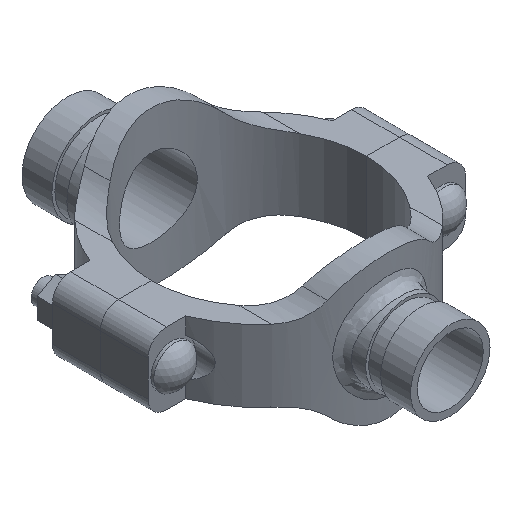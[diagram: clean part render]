
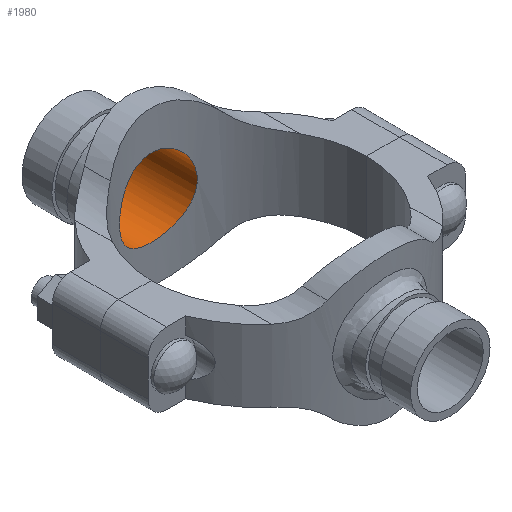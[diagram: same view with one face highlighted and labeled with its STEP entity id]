
A CAD part, isometric view. The second image highlights one B-rep face of the part: STEP entity #1980.
In plain terms, the highlighted cylindrical face has radius 20.637 mm (diameter 41.275 mm), a full revolution.
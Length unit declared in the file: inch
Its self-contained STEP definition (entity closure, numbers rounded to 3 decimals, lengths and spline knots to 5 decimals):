
#35=B_SPLINE_CURVE_WITH_KNOTS('',3,(#3374,#3375,#3376,#3377,#3378,#3379,
#3380,#3381,#3382,#3383,#3384,#3385,#3386,#3387,#3388,#3389,#3390,#3391,
#3392,#3393,#3394,#3395,#3396,#3397,#3398,#3399,#3400,#3401,#3402,#3403,
#3404,#3405,#3406,#3407,#3408,#3409,#3410,#3411,#3412,#3413,#3414,#3415,
#3416,#3417,#3418,#3419,#3420,#3421,#3422,#3423,#3424,#3425,#3426,#3427,
#3428,#3429,#3430,#3431,#3432,#3433,#3434,#3435,#3436,#3437,#3438,#3439),
 .UNSPECIFIED.,.T.,.F.,(4,2,2,2,2,2,2,2,2,2,2,2,2,2,2,2,2,2,2,2,2,2,2,2,
2,2,2,2,2,2,2,2,4),(0.,0.39269,0.78538,1.17808,
1.57077,1.96321,2.35564,2.74808,3.14051,
3.53295,3.92539,4.31782,4.71026,5.10295,
5.49564,5.88834,6.28103,6.67372,7.06641,
7.45911,7.8518,8.24423,8.63667,9.02911,
9.42154,9.81398,10.20642,10.59885,10.99129,
11.38398,11.77667,12.16937,12.56206),
 .UNSPECIFIED.);
#77=CYLINDRICAL_SURFACE('',#2186,0.8125);
#178=FACE_OUTER_BOUND('',#293,.T.);
#293=EDGE_LOOP('',(#1408,#1409,#1410,#1411));
#440=LINE('',#3373,#590);
#590=VECTOR('',#2532,0.8125);
#713=CIRCLE('',#2187,0.8125);
#846=VERTEX_POINT('',#3370);
#847=VERTEX_POINT('',#3372);
#1062=EDGE_CURVE('',#846,#846,#713,.T.);
#1063=EDGE_CURVE('',#846,#847,#440,.T.);
#1064=EDGE_CURVE('',#847,#847,#35,.T.);
#1408=ORIENTED_EDGE('',*,*,#1062,.F.);
#1409=ORIENTED_EDGE('',*,*,#1063,.T.);
#1410=ORIENTED_EDGE('',*,*,#1064,.F.);
#1411=ORIENTED_EDGE('',*,*,#1063,.F.);
#1980=ADVANCED_FACE('',(#178),#77,.F.);
#2186=AXIS2_PLACEMENT_3D('',#3369,#2528,#2529);
#2187=AXIS2_PLACEMENT_3D('',#3371,#2530,#2531);
#2528=DIRECTION('center_axis',(0.,-1.,0.));
#2529=DIRECTION('ref_axis',(-1.,0.,0.));
#2530=DIRECTION('center_axis',(0.,-1.,0.));
#2531=DIRECTION('ref_axis',(-1.,0.,0.));
#2532=DIRECTION('',(0.,-1.,0.));
#3369=CARTESIAN_POINT('Origin',(0.,4.,0.));
#3370=CARTESIAN_POINT('',(0.8125,4.,0.));
#3371=CARTESIAN_POINT('Origin',(0.,4.,0.));
#3372=CARTESIAN_POINT('',(0.8125,2.09818,0.));
#3373=CARTESIAN_POINT('',(0.8125,4.,0.));
#3374=CARTESIAN_POINT('Ctrl Pts',(0.8125,2.09818,0.));
#3375=CARTESIAN_POINT('Ctrl Pts',(0.8125,2.09818,-0.05153));
#3376=CARTESIAN_POINT('Ctrl Pts',(0.80752,2.10013,-0.10466));
#3377=CARTESIAN_POINT('Ctrl Pts',(0.78672,2.10801,-0.21002));
#3378=CARTESIAN_POINT('Ctrl Pts',(0.77091,2.11393,-0.26226));
#3379=CARTESIAN_POINT('Ctrl Pts',(0.72932,2.12863,-0.36219));
#3380=CARTESIAN_POINT('Ctrl Pts',(0.7035,2.13742,-0.40997));
#3381=CARTESIAN_POINT('Ctrl Pts',(0.64402,2.15609,-0.49823));
#3382=CARTESIAN_POINT('Ctrl Pts',(0.61035,2.16595,-0.5387));
#3383=CARTESIAN_POINT('Ctrl Pts',(0.53873,2.18487,-0.61032));
#3384=CARTESIAN_POINT('Ctrl Pts',(0.49826,2.1946,-0.64399));
#3385=CARTESIAN_POINT('Ctrl Pts',(0.41,2.21279,-0.70348));
#3386=CARTESIAN_POINT('Ctrl Pts',(0.3622,2.22123,-0.72932));
#3387=CARTESIAN_POINT('Ctrl Pts',(0.26223,2.23524,-0.77092));
#3388=CARTESIAN_POINT('Ctrl Pts',(0.20998,2.2408,-0.78673));
#3389=CARTESIAN_POINT('Ctrl Pts',(0.10462,2.24819,-0.80752));
#3390=CARTESIAN_POINT('Ctrl Pts',(0.0515,2.25,-0.8125));
#3391=CARTESIAN_POINT('Ctrl Pts',(-0.0515,2.25,-0.8125));
#3392=CARTESIAN_POINT('Ctrl Pts',(-0.10462,2.24819,-0.80752));
#3393=CARTESIAN_POINT('Ctrl Pts',(-0.20998,2.2408,-0.78673));
#3394=CARTESIAN_POINT('Ctrl Pts',(-0.26223,2.23524,-0.77092));
#3395=CARTESIAN_POINT('Ctrl Pts',(-0.3622,2.22123,-0.72932));
#3396=CARTESIAN_POINT('Ctrl Pts',(-0.41,2.21279,-0.70348));
#3397=CARTESIAN_POINT('Ctrl Pts',(-0.49826,2.1946,-0.64399));
#3398=CARTESIAN_POINT('Ctrl Pts',(-0.53873,2.18487,-0.61032));
#3399=CARTESIAN_POINT('Ctrl Pts',(-0.61035,2.16595,-0.5387));
#3400=CARTESIAN_POINT('Ctrl Pts',(-0.64402,2.15609,-0.49823));
#3401=CARTESIAN_POINT('Ctrl Pts',(-0.7035,2.13742,-0.40997));
#3402=CARTESIAN_POINT('Ctrl Pts',(-0.72932,2.12863,-0.36219));
#3403=CARTESIAN_POINT('Ctrl Pts',(-0.77091,2.11393,-0.26226));
#3404=CARTESIAN_POINT('Ctrl Pts',(-0.78672,2.10801,-0.21002));
#3405=CARTESIAN_POINT('Ctrl Pts',(-0.80752,2.10013,-0.10466));
#3406=CARTESIAN_POINT('Ctrl Pts',(-0.8125,2.09818,-0.05153));
#3407=CARTESIAN_POINT('Ctrl Pts',(-0.8125,2.09818,0.05153));
#3408=CARTESIAN_POINT('Ctrl Pts',(-0.80752,2.10013,0.10466));
#3409=CARTESIAN_POINT('Ctrl Pts',(-0.78672,2.10801,0.21002));
#3410=CARTESIAN_POINT('Ctrl Pts',(-0.77091,2.11393,0.26226));
#3411=CARTESIAN_POINT('Ctrl Pts',(-0.72932,2.12863,0.36219));
#3412=CARTESIAN_POINT('Ctrl Pts',(-0.7035,2.13742,0.40997));
#3413=CARTESIAN_POINT('Ctrl Pts',(-0.64402,2.15609,0.49823));
#3414=CARTESIAN_POINT('Ctrl Pts',(-0.61035,2.16595,0.5387));
#3415=CARTESIAN_POINT('Ctrl Pts',(-0.53873,2.18487,0.61032));
#3416=CARTESIAN_POINT('Ctrl Pts',(-0.49826,2.1946,0.64399));
#3417=CARTESIAN_POINT('Ctrl Pts',(-0.41,2.21279,0.70348));
#3418=CARTESIAN_POINT('Ctrl Pts',(-0.3622,2.22123,0.72932));
#3419=CARTESIAN_POINT('Ctrl Pts',(-0.26223,2.23524,0.77092));
#3420=CARTESIAN_POINT('Ctrl Pts',(-0.20998,2.2408,0.78673));
#3421=CARTESIAN_POINT('Ctrl Pts',(-0.10462,2.24819,0.80752));
#3422=CARTESIAN_POINT('Ctrl Pts',(-0.0515,2.25,0.8125));
#3423=CARTESIAN_POINT('Ctrl Pts',(0.0515,2.25,0.8125));
#3424=CARTESIAN_POINT('Ctrl Pts',(0.10462,2.24819,0.80752));
#3425=CARTESIAN_POINT('Ctrl Pts',(0.20998,2.2408,0.78673));
#3426=CARTESIAN_POINT('Ctrl Pts',(0.26223,2.23524,0.77092));
#3427=CARTESIAN_POINT('Ctrl Pts',(0.3622,2.22123,0.72932));
#3428=CARTESIAN_POINT('Ctrl Pts',(0.41,2.21279,0.70348));
#3429=CARTESIAN_POINT('Ctrl Pts',(0.49826,2.1946,0.64399));
#3430=CARTESIAN_POINT('Ctrl Pts',(0.53873,2.18487,0.61032));
#3431=CARTESIAN_POINT('Ctrl Pts',(0.61035,2.16595,0.5387));
#3432=CARTESIAN_POINT('Ctrl Pts',(0.64402,2.15609,0.49823));
#3433=CARTESIAN_POINT('Ctrl Pts',(0.7035,2.13742,0.40997));
#3434=CARTESIAN_POINT('Ctrl Pts',(0.72932,2.12863,0.36219));
#3435=CARTESIAN_POINT('Ctrl Pts',(0.77091,2.11393,0.26226));
#3436=CARTESIAN_POINT('Ctrl Pts',(0.78672,2.10801,0.21002));
#3437=CARTESIAN_POINT('Ctrl Pts',(0.80752,2.10013,0.10466));
#3438=CARTESIAN_POINT('Ctrl Pts',(0.8125,2.09818,0.05153));
#3439=CARTESIAN_POINT('Ctrl Pts',(0.8125,2.09818,0.));
